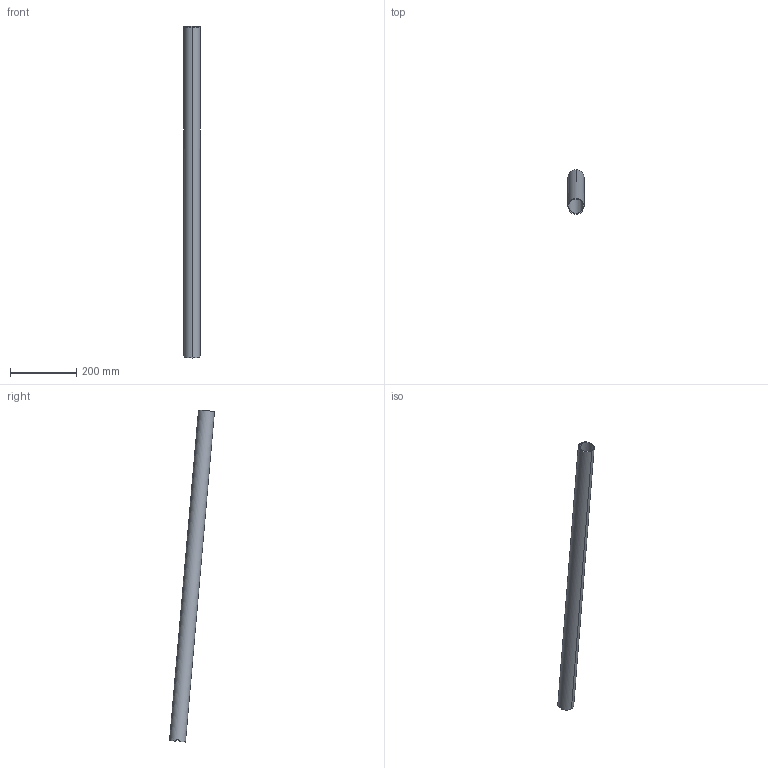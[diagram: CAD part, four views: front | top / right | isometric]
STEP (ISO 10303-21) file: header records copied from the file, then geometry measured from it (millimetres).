
FILE_DESCRIPTION (( 'STEP AP214' ), '1' );
FILE_NAME ('CCJ029-REP.335 - TUBE PIVOT PORTILLON A1-A2.STEP', '2025-11-04T12:22:17', ( '' ), ( '' ), 'SwSTEP 2.0', 'SolidWorks 2021', '' );
FILE_SCHEMA (( 'AUTOMOTIVE_DESIGN' ));
Length unit declared in the file: millimetre
Products named in the file (1): CCJ029-REP.335 - TUBE PIVOT PORTILLON A1-A2
Bounding box: 48.3 x 135.27 x 1000.4 mm (x, y, z)
Volume: 359514.8 mm3; surface area: 288360.4 mm2
Topology: 1 solids, 1 shells, 11 faces, 30 edges, 20 vertices
Faces by surface type: cylinder 8, plane 3
Entity records: 524 total; most frequent: CARTESIAN_POINT 208, ORIENTED_EDGE 60, DIRECTION 58, EDGE_CURVE 30, AXIS2_PLACEMENT_3D 24, VERTEX_POINT 20, EDGE_LOOP 12, CIRCLE 12
